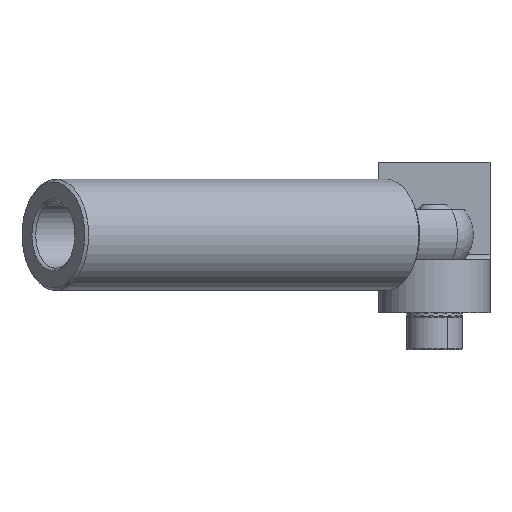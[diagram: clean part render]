
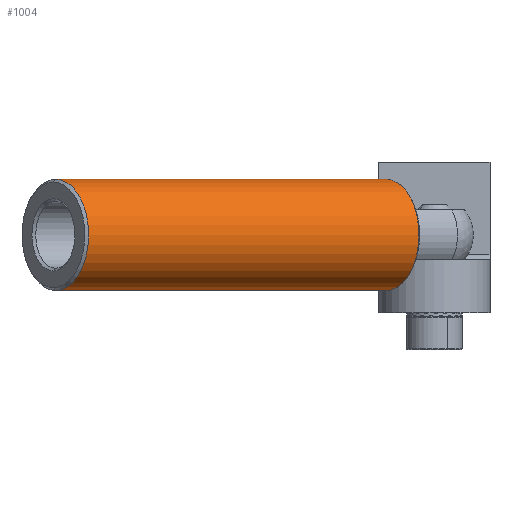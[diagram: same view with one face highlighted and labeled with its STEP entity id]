
A CAD part, front view. The second image highlights one B-rep face of the part: STEP entity #1004.
In plain terms, the highlighted cylindrical face has radius 10 mm (diameter 20 mm), a partial arc.
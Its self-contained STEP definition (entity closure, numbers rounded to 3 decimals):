
#108 = DIRECTION ( 'NONE',  ( -0.805, -0.593, 0. ) ) ;
#305 = AXIS2_PLACEMENT_3D ( 'NONE', #3011, #8644, #3843 ) ;
#634 = ORIENTED_EDGE ( 'NONE', *, *, #9995, .T. ) ;
#1004 = ADVANCED_FACE ( 'NONE', ( #3784 ), #4033, .T. ) ;
#1007 = CARTESIAN_POINT ( 'NONE',  ( -6.437, -8.01, 10.5 ) ) ;
#1009 = DIRECTION ( 'NONE',  ( -0.805, -0.593, 0. ) ) ;
#1122 = EDGE_LOOP ( 'NONE', ( #5914, #9763, #634, #7882, #4019 ) ) ;
#1251 = CIRCLE ( 'NONE', #10336, 10. ) ;
#1642 = CARTESIAN_POINT ( 'NONE',  ( -6.437, -8.01, -9.5 ) ) ;
#1735 = CARTESIAN_POINT ( 'NONE',  ( -65.767, -51.733, -9.5 ) ) ;
#1772 = CARTESIAN_POINT ( 'NONE',  ( -0.505, -16.06, 0.5 ) ) ;
#2065 = VECTOR ( 'NONE', #7413, 1000. ) ;
#2176 = CARTESIAN_POINT ( 'NONE',  ( -6.437, -8.01, 0.5 ) ) ;
#2599 = EDGE_CURVE ( 'NONE', #8664, #5787, #7204, .T. ) ;
#2712 = VERTEX_POINT ( 'NONE', #1735 ) ;
#2735 = EDGE_CURVE ( 'NONE', #5787, #5150, #1251, .T. ) ;
#2941 = DIRECTION ( 'NONE',  ( 0., 0., -1. ) ) ;
#3011 = CARTESIAN_POINT ( 'NONE',  ( -65.767, -51.733, 0.5 ) ) ;
#3130 = CARTESIAN_POINT ( 'NONE',  ( -6.437, -8.01, 10.5 ) ) ;
#3714 = CARTESIAN_POINT ( 'NONE',  ( -6.437, -8.01, -9.5 ) ) ;
#3784 = FACE_OUTER_BOUND ( 'NONE', #1122, .T. ) ;
#3843 = DIRECTION ( 'NONE',  ( 0., 0., -1. ) ) ;
#4019 = ORIENTED_EDGE ( 'NONE', *, *, #6516, .F. ) ;
#4033 = CYLINDRICAL_SURFACE ( 'NONE', #6155, 10. ) ;
#4249 = VERTEX_POINT ( 'NONE', #7579 ) ;
#4408 = VECTOR ( 'NONE', #1009, 1000. ) ;
#5150 = VERTEX_POINT ( 'NONE', #3130 ) ;
#5787 = VERTEX_POINT ( 'NONE', #1772 ) ;
#5907 = DIRECTION ( 'NONE',  ( 0., 0., -1. ) ) ;
#5914 = ORIENTED_EDGE ( 'NONE', *, *, #2599, .T. ) ;
#5949 = DIRECTION ( 'NONE',  ( -0.805, -0.593, 0. ) ) ;
#6019 = CARTESIAN_POINT ( 'NONE',  ( -6.437, -8.01, 0.5 ) ) ;
#6155 = AXIS2_PLACEMENT_3D ( 'NONE', #2176, #108, #2941 ) ;
#6516 = EDGE_CURVE ( 'NONE', #8664, #2712, #6559, .T. ) ;
#6559 = LINE ( 'NONE', #1642, #4408 ) ;
#7204 = CIRCLE ( 'NONE', #7302, 10. ) ;
#7302 = AXIS2_PLACEMENT_3D ( 'NONE', #6019, #5949, #5907 ) ;
#7413 = DIRECTION ( 'NONE',  ( -0.805, -0.593, 0. ) ) ;
#7428 = EDGE_CURVE ( 'NONE', #2712, #4249, #7751, .T. ) ;
#7579 = CARTESIAN_POINT ( 'NONE',  ( -65.767, -51.733, 10.5 ) ) ;
#7751 = CIRCLE ( 'NONE', #305, 10. ) ;
#7882 = ORIENTED_EDGE ( 'NONE', *, *, #7428, .F. ) ;
#8272 = LINE ( 'NONE', #1007, #2065 ) ;
#8644 = DIRECTION ( 'NONE',  ( -0.805, -0.593, 0. ) ) ;
#8664 = VERTEX_POINT ( 'NONE', #3714 ) ;
#9255 = DIRECTION ( 'NONE',  ( 0., 0., -1. ) ) ;
#9297 = DIRECTION ( 'NONE',  ( -0.805, -0.593, 0. ) ) ;
#9335 = CARTESIAN_POINT ( 'NONE',  ( -6.437, -8.01, 0.5 ) ) ;
#9763 = ORIENTED_EDGE ( 'NONE', *, *, #2735, .T. ) ;
#9995 = EDGE_CURVE ( 'NONE', #5150, #4249, #8272, .T. ) ;
#10336 = AXIS2_PLACEMENT_3D ( 'NONE', #9335, #9297, #9255 ) ;
